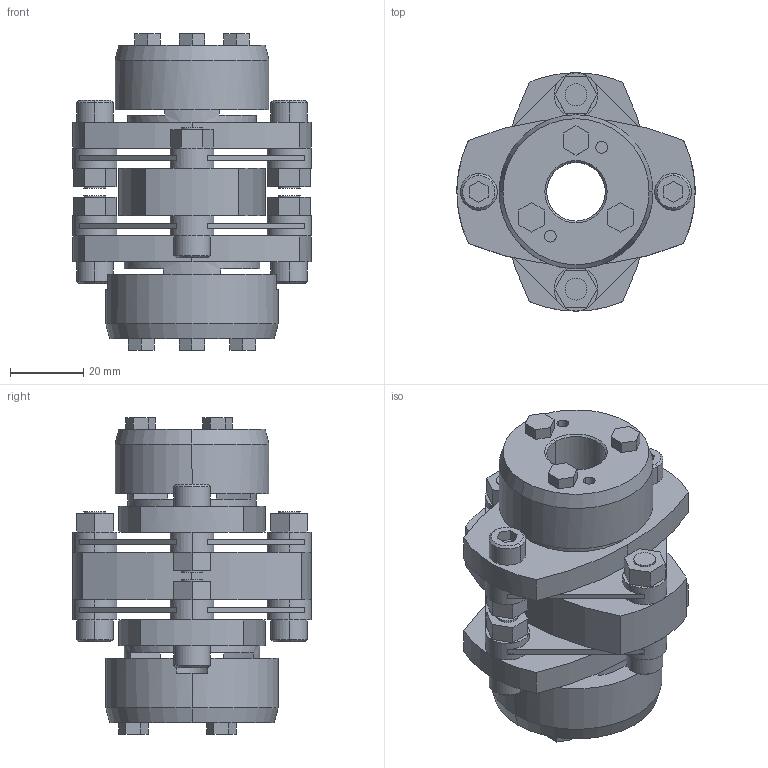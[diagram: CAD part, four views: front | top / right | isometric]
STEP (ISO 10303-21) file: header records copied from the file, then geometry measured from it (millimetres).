
FILE_DESCRIPTION((''),'2;1');
FILE_NAME('LCD-65T7-16×20.stp','2011-08-23T13:54:34',(''),(''),'AutoCAD STEP 2000i','AutoCAD 2000i',', , ');
FILE_SCHEMA(('CONFIG_CONTROL_DESIGN'));
Length unit declared in the file: millimetre
Products named in the file (7): LCD-65T7-15×19; 忣兜1; LC65T7-T019; LC65T7-T017; LC65T7-T015-1; LC65T7-T015; LCD65-ITA
Assembly tree (6 placements, depth 2):
  LCD-65T7-15×19
    忣兜1
    LC65T7-T019
    LC65T7-T017
    LC65T7-T015-1
    LC65T7-T015
    LCD65-ITA
Bounding box: 65 x 65 x 86.4 mm (x, y, z)
Volume: 112991.8 mm3; surface area: 40526.7 mm2
Topology: 1 solids, 1 shells, 300 faces, 781 edges, 509 vertices
Faces by surface type: plane 178, cylinder 98, cone 24
Entity records: 9461 total; most frequent: DIRECTION 1680, CARTESIAN_POINT 1597, ORIENTED_EDGE 1562, EDGE_CURVE 781, AXIS2_PLACEMENT_3D 592, VERTEX_POINT 509, VECTOR 496, LINE 496
